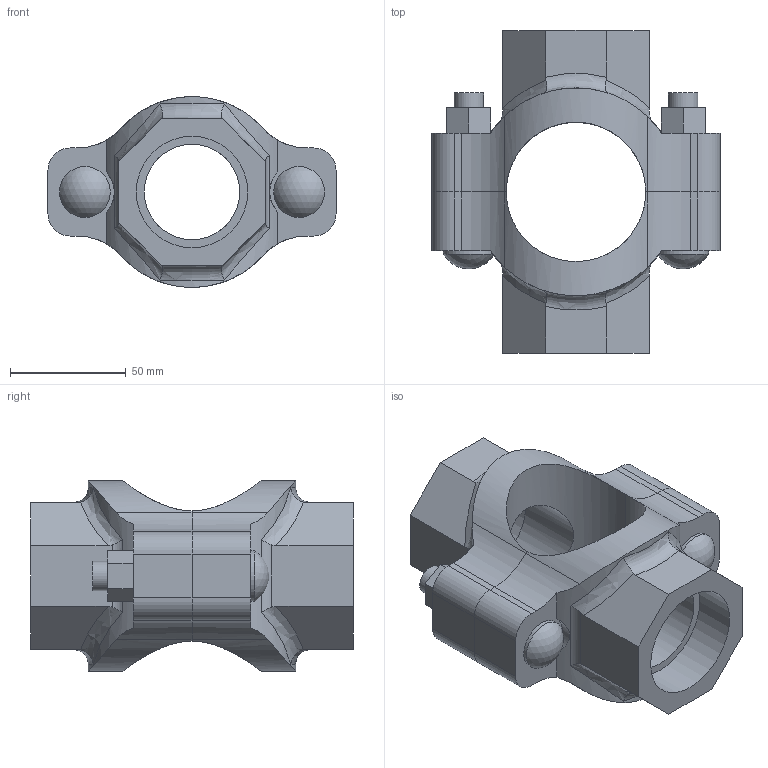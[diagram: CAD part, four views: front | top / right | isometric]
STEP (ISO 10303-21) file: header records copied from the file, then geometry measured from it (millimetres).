
FILE_DESCRIPTION(/* description */ ('VIC MECH-T BRANCH OUTLET CROSS STYLE 920N (THD)','CAx-IF Rec.Pracs.---Representation and Presentation of Product Manufacturing Information (PMI)---4.0---2014-10-13'),/* implementation_level */ '2;1');
FILE_NAME(/* name */ 'C:\Users\Vjadhav\AppData\Roaming\Autodesk\ApplicationPlugins\Back Up\Victaulic_IPS_Mechanical-Cross Outlet_Style 920N (FPT)\Victaulic_IPS_Mechanical-Cross Outlet_02.0x01.5x01.5 (50x40x40).stp',/* time_stamp */ '2020-08-06T18:56:16+05:00',/* author */ ('Vjadhav'),/* organization */ ('Victaulic'),/* preprocessor_version */ 'ST-DEVELOPER v17.2',/* originating_system */ 'Autodesk Inventor 2019',/* authorisation */ '');
FILE_SCHEMA (('AP242_MANAGED_MODEL_BASED_3D_ENGINEERING_MIM_LF { 1 0 10303 442 1 1 4 }'));
Length unit declared in the file: inch
Products named in the file (3): 920NT-02.0x01.5x01.5; 920NT-02.0x01.5; 920NT-02.0x01.5_1
Assembly tree (2 placements, depth 2):
  920NT-02.0x01.5x01.5
    920NT-02.0x01.5
    920NT-02.0x01.5_1
Bounding box: 124.71 x 139.7 x 82.51 mm (x, y, z)
Volume: 354382 mm3; surface area: 80528.3 mm2
Topology: 2 solids, 2 shells, 132 faces, 350 edges, 236 vertices
Faces by surface type: plane 68, cylinder 50, bspline 8, torus 4, sphere 2
Full cylindrical faces by diameter (mm): 12.7 x4, 21.982 x2, 41.275 x2, 48.26 x2
Entity records: 5138 total; most frequent: CARTESIAN_POINT 1601, ORIENTED_EDGE 700, DIRECTION 664, EDGE_CURVE 350, AXIS2_PLACEMENT_3D 239, VERTEX_POINT 236, LINE 186, VECTOR 186
